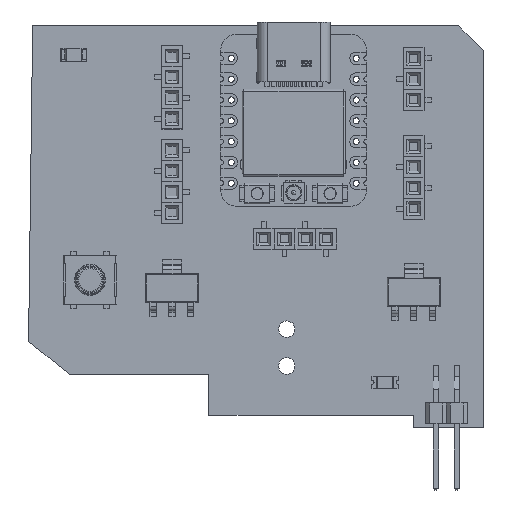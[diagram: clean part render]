
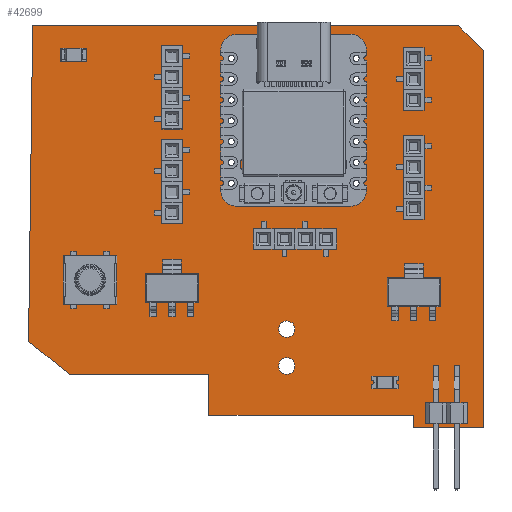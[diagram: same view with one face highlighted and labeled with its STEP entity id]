
A CAD part, top view. The second image highlights one B-rep face of the part: STEP entity #42699.
In plain terms, the highlighted planar face has unit normal (0, 0, 1).
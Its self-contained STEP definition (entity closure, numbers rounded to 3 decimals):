
#42363 = VERTEX_POINT('',#42364);
#42364 = CARTESIAN_POINT('',(242.,-41.5,1.51));
#42370 = EDGE_CURVE('',#42363,#42371,#42373,.T.);
#42371 = VERTEX_POINT('',#42372);
#42372 = CARTESIAN_POINT('',(242.,-87.5,1.51));
#42373 = LINE('',#42374,#42375);
#42374 = CARTESIAN_POINT('',(242.,-41.5,1.51));
#42375 = VECTOR('',#42376,1.);
#42376 = DIRECTION('',(0.,-1.,0.));
#42403 = VERTEX_POINT('',#42404);
#42404 = CARTESIAN_POINT('',(239.,-38.5,1.51));
#42410 = EDGE_CURVE('',#42403,#42363,#42411,.T.);
#42411 = LINE('',#42412,#42413);
#42412 = CARTESIAN_POINT('',(239.,-38.5,1.51));
#42413 = VECTOR('',#42414,1.);
#42414 = DIRECTION('',(0.707,-0.707,0.));
#42432 = EDGE_CURVE('',#42371,#42433,#42435,.T.);
#42433 = VERTEX_POINT('',#42434);
#42434 = CARTESIAN_POINT('',(233.5,-87.5,1.51));
#42435 = LINE('',#42436,#42437);
#42436 = CARTESIAN_POINT('',(242.,-87.5,1.51));
#42437 = VECTOR('',#42438,1.);
#42438 = DIRECTION('',(-1.,0.,0.));
#42699 = ADVANCED_FACE('',(#42700,#42759,#42770,#42781,#42792,#42803,
    #42814,#42825,#42836,#42847,#42858,#42869,#42880,#42891,#42902,
    #42913,#42924),#42935,.T.);
#42700 = FACE_BOUND('',#42701,.T.);
#42701 = EDGE_LOOP('',(#42702,#42703,#42704,#42712,#42720,#42728,#42736,
    #42744,#42752,#42758));
#42702 = ORIENTED_EDGE('',*,*,#42370,.F.);
#42703 = ORIENTED_EDGE('',*,*,#42410,.F.);
#42704 = ORIENTED_EDGE('',*,*,#42705,.F.);
#42705 = EDGE_CURVE('',#42706,#42403,#42708,.T.);
#42706 = VERTEX_POINT('',#42707);
#42707 = CARTESIAN_POINT('',(187.,-38.5,1.51));
#42708 = LINE('',#42709,#42710);
#42709 = CARTESIAN_POINT('',(187.,-38.5,1.51));
#42710 = VECTOR('',#42711,1.);
#42711 = DIRECTION('',(1.,0.,0.));
#42712 = ORIENTED_EDGE('',*,*,#42713,.F.);
#42713 = EDGE_CURVE('',#42714,#42706,#42716,.T.);
#42714 = VERTEX_POINT('',#42715);
#42715 = CARTESIAN_POINT('',(186.5,-77.,1.51));
#42716 = LINE('',#42717,#42718);
#42717 = CARTESIAN_POINT('',(186.5,-77.,1.51));
#42718 = VECTOR('',#42719,1.);
#42719 = DIRECTION('',(0.013,1.,0.));
#42720 = ORIENTED_EDGE('',*,*,#42721,.F.);
#42721 = EDGE_CURVE('',#42722,#42714,#42724,.T.);
#42722 = VERTEX_POINT('',#42723);
#42723 = CARTESIAN_POINT('',(191.5,-81.,1.51));
#42724 = LINE('',#42725,#42726);
#42725 = CARTESIAN_POINT('',(191.5,-81.,1.51));
#42726 = VECTOR('',#42727,1.);
#42727 = DIRECTION('',(-0.781,0.625,0.));
#42728 = ORIENTED_EDGE('',*,*,#42729,.F.);
#42729 = EDGE_CURVE('',#42730,#42722,#42732,.T.);
#42730 = VERTEX_POINT('',#42731);
#42731 = CARTESIAN_POINT('',(208.5,-81.,1.51));
#42732 = LINE('',#42733,#42734);
#42733 = CARTESIAN_POINT('',(208.5,-81.,1.51));
#42734 = VECTOR('',#42735,1.);
#42735 = DIRECTION('',(-1.,0.,0.));
#42736 = ORIENTED_EDGE('',*,*,#42737,.F.);
#42737 = EDGE_CURVE('',#42738,#42730,#42740,.T.);
#42738 = VERTEX_POINT('',#42739);
#42739 = CARTESIAN_POINT('',(208.5,-86.,1.51));
#42740 = LINE('',#42741,#42742);
#42741 = CARTESIAN_POINT('',(208.5,-86.,1.51));
#42742 = VECTOR('',#42743,1.);
#42743 = DIRECTION('',(0.,1.,0.));
#42744 = ORIENTED_EDGE('',*,*,#42745,.F.);
#42745 = EDGE_CURVE('',#42746,#42738,#42748,.T.);
#42746 = VERTEX_POINT('',#42747);
#42747 = CARTESIAN_POINT('',(233.5,-86.,1.51));
#42748 = LINE('',#42749,#42750);
#42749 = CARTESIAN_POINT('',(233.5,-86.,1.51));
#42750 = VECTOR('',#42751,1.);
#42751 = DIRECTION('',(-1.,0.,0.));
#42752 = ORIENTED_EDGE('',*,*,#42753,.F.);
#42753 = EDGE_CURVE('',#42433,#42746,#42754,.T.);
#42754 = LINE('',#42755,#42756);
#42755 = CARTESIAN_POINT('',(233.5,-87.5,1.51));
#42756 = VECTOR('',#42757,1.);
#42757 = DIRECTION('',(0.,1.,0.));
#42758 = ORIENTED_EDGE('',*,*,#42432,.F.);
#42759 = FACE_BOUND('',#42760,.T.);
#42760 = EDGE_LOOP('',(#42761));
#42761 = ORIENTED_EDGE('',*,*,#42762,.T.);
#42762 = EDGE_CURVE('',#42763,#42763,#42765,.T.);
#42763 = VERTEX_POINT('',#42764);
#42764 = CARTESIAN_POINT('',(218.,-81.,1.51));
#42765 = CIRCLE('',#42766,1.);
#42766 = AXIS2_PLACEMENT_3D('',#42767,#42768,#42769);
#42767 = CARTESIAN_POINT('',(218.,-80.,1.51));
#42768 = DIRECTION('',(-0.,0.,-1.));
#42769 = DIRECTION('',(-0.,-1.,0.));
#42770 = FACE_BOUND('',#42771,.T.);
#42771 = EDGE_LOOP('',(#42772));
#42772 = ORIENTED_EDGE('',*,*,#42773,.T.);
#42773 = EDGE_CURVE('',#42774,#42774,#42776,.T.);
#42774 = VERTEX_POINT('',#42775);
#42775 = CARTESIAN_POINT('',(218.,-76.5,1.51));
#42776 = CIRCLE('',#42777,1.);
#42777 = AXIS2_PLACEMENT_3D('',#42778,#42779,#42780);
#42778 = CARTESIAN_POINT('',(218.,-75.5,1.51));
#42779 = DIRECTION('',(-0.,0.,-1.));
#42780 = DIRECTION('',(-0.,-1.,0.));
#42781 = FACE_BOUND('',#42782,.T.);
#42782 = EDGE_LOOP('',(#42783));
#42783 = ORIENTED_EDGE('',*,*,#42784,.T.);
#42784 = EDGE_CURVE('',#42785,#42785,#42787,.T.);
#42785 = VERTEX_POINT('',#42786);
#42786 = CARTESIAN_POINT('',(211.335,-58.185,1.51));
#42787 = CIRCLE('',#42788,0.445);
#42788 = AXIS2_PLACEMENT_3D('',#42789,#42790,#42791);
#42789 = CARTESIAN_POINT('',(211.335,-57.74,1.51));
#42790 = DIRECTION('',(-0.,0.,-1.));
#42791 = DIRECTION('',(-0.,-1.,0.));
#42792 = FACE_BOUND('',#42793,.T.);
#42793 = EDGE_LOOP('',(#42794));
#42794 = ORIENTED_EDGE('',*,*,#42795,.T.);
#42795 = EDGE_CURVE('',#42796,#42796,#42798,.T.);
#42796 = VERTEX_POINT('',#42797);
#42797 = CARTESIAN_POINT('',(211.335,-55.645,1.51));
#42798 = CIRCLE('',#42799,0.445);
#42799 = AXIS2_PLACEMENT_3D('',#42800,#42801,#42802);
#42800 = CARTESIAN_POINT('',(211.335,-55.2,1.51));
#42801 = DIRECTION('',(-0.,0.,-1.));
#42802 = DIRECTION('',(-0.,-1.,0.));
#42803 = FACE_BOUND('',#42804,.T.);
#42804 = EDGE_LOOP('',(#42805));
#42805 = ORIENTED_EDGE('',*,*,#42806,.T.);
#42806 = EDGE_CURVE('',#42807,#42807,#42809,.T.);
#42807 = VERTEX_POINT('',#42808);
#42808 = CARTESIAN_POINT('',(211.335,-53.105,1.51));
#42809 = CIRCLE('',#42810,0.445);
#42810 = AXIS2_PLACEMENT_3D('',#42811,#42812,#42813);
#42811 = CARTESIAN_POINT('',(211.335,-52.66,1.51));
#42812 = DIRECTION('',(-0.,0.,-1.));
#42813 = DIRECTION('',(-0.,-1.,0.));
#42814 = FACE_BOUND('',#42815,.T.);
#42815 = EDGE_LOOP('',(#42816));
#42816 = ORIENTED_EDGE('',*,*,#42817,.T.);
#42817 = EDGE_CURVE('',#42818,#42818,#42820,.T.);
#42818 = VERTEX_POINT('',#42819);
#42819 = CARTESIAN_POINT('',(211.335,-50.565,1.51));
#42820 = CIRCLE('',#42821,0.445);
#42821 = AXIS2_PLACEMENT_3D('',#42822,#42823,#42824);
#42822 = CARTESIAN_POINT('',(211.335,-50.12,1.51));
#42823 = DIRECTION('',(-0.,0.,-1.));
#42824 = DIRECTION('',(-0.,-1.,0.));
#42825 = FACE_BOUND('',#42826,.T.);
#42826 = EDGE_LOOP('',(#42827));
#42827 = ORIENTED_EDGE('',*,*,#42828,.T.);
#42828 = EDGE_CURVE('',#42829,#42829,#42831,.T.);
#42829 = VERTEX_POINT('',#42830);
#42830 = CARTESIAN_POINT('',(211.335,-48.025,1.51));
#42831 = CIRCLE('',#42832,0.445);
#42832 = AXIS2_PLACEMENT_3D('',#42833,#42834,#42835);
#42833 = CARTESIAN_POINT('',(211.335,-47.58,1.51));
#42834 = DIRECTION('',(-0.,0.,-1.));
#42835 = DIRECTION('',(-0.,-1.,0.));
#42836 = FACE_BOUND('',#42837,.T.);
#42837 = EDGE_LOOP('',(#42838));
#42838 = ORIENTED_EDGE('',*,*,#42839,.T.);
#42839 = EDGE_CURVE('',#42840,#42840,#42842,.T.);
#42840 = VERTEX_POINT('',#42841);
#42841 = CARTESIAN_POINT('',(211.335,-45.485,1.51));
#42842 = CIRCLE('',#42843,0.445);
#42843 = AXIS2_PLACEMENT_3D('',#42844,#42845,#42846);
#42844 = CARTESIAN_POINT('',(211.335,-45.04,1.51));
#42845 = DIRECTION('',(-0.,0.,-1.));
#42846 = DIRECTION('',(-0.,-1.,0.));
#42847 = FACE_BOUND('',#42848,.T.);
#42848 = EDGE_LOOP('',(#42849));
#42849 = ORIENTED_EDGE('',*,*,#42850,.T.);
#42850 = EDGE_CURVE('',#42851,#42851,#42853,.T.);
#42851 = VERTEX_POINT('',#42852);
#42852 = CARTESIAN_POINT('',(211.335,-42.945,1.51));
#42853 = CIRCLE('',#42854,0.445);
#42854 = AXIS2_PLACEMENT_3D('',#42855,#42856,#42857);
#42855 = CARTESIAN_POINT('',(211.335,-42.5,1.51));
#42856 = DIRECTION('',(-0.,0.,-1.));
#42857 = DIRECTION('',(-0.,-1.,0.));
#42858 = FACE_BOUND('',#42859,.T.);
#42859 = EDGE_LOOP('',(#42860));
#42860 = ORIENTED_EDGE('',*,*,#42861,.T.);
#42861 = EDGE_CURVE('',#42862,#42862,#42864,.T.);
#42862 = VERTEX_POINT('',#42863);
#42863 = CARTESIAN_POINT('',(226.575,-58.185,1.51));
#42864 = CIRCLE('',#42865,0.445);
#42865 = AXIS2_PLACEMENT_3D('',#42866,#42867,#42868);
#42866 = CARTESIAN_POINT('',(226.575,-57.74,1.51));
#42867 = DIRECTION('',(-0.,0.,-1.));
#42868 = DIRECTION('',(-0.,-1.,0.));
#42869 = FACE_BOUND('',#42870,.T.);
#42870 = EDGE_LOOP('',(#42871));
#42871 = ORIENTED_EDGE('',*,*,#42872,.T.);
#42872 = EDGE_CURVE('',#42873,#42873,#42875,.T.);
#42873 = VERTEX_POINT('',#42874);
#42874 = CARTESIAN_POINT('',(226.575,-55.645,1.51));
#42875 = CIRCLE('',#42876,0.445);
#42876 = AXIS2_PLACEMENT_3D('',#42877,#42878,#42879);
#42877 = CARTESIAN_POINT('',(226.575,-55.2,1.51));
#42878 = DIRECTION('',(-0.,0.,-1.));
#42879 = DIRECTION('',(-0.,-1.,0.));
#42880 = FACE_BOUND('',#42881,.T.);
#42881 = EDGE_LOOP('',(#42882));
#42882 = ORIENTED_EDGE('',*,*,#42883,.T.);
#42883 = EDGE_CURVE('',#42884,#42884,#42886,.T.);
#42884 = VERTEX_POINT('',#42885);
#42885 = CARTESIAN_POINT('',(226.575,-53.105,1.51));
#42886 = CIRCLE('',#42887,0.445);
#42887 = AXIS2_PLACEMENT_3D('',#42888,#42889,#42890);
#42888 = CARTESIAN_POINT('',(226.575,-52.66,1.51));
#42889 = DIRECTION('',(-0.,0.,-1.));
#42890 = DIRECTION('',(-0.,-1.,0.));
#42891 = FACE_BOUND('',#42892,.T.);
#42892 = EDGE_LOOP('',(#42893));
#42893 = ORIENTED_EDGE('',*,*,#42894,.T.);
#42894 = EDGE_CURVE('',#42895,#42895,#42897,.T.);
#42895 = VERTEX_POINT('',#42896);
#42896 = CARTESIAN_POINT('',(226.575,-50.565,1.51));
#42897 = CIRCLE('',#42898,0.445);
#42898 = AXIS2_PLACEMENT_3D('',#42899,#42900,#42901);
#42899 = CARTESIAN_POINT('',(226.575,-50.12,1.51));
#42900 = DIRECTION('',(-0.,0.,-1.));
#42901 = DIRECTION('',(-0.,-1.,0.));
#42902 = FACE_BOUND('',#42903,.T.);
#42903 = EDGE_LOOP('',(#42904));
#42904 = ORIENTED_EDGE('',*,*,#42905,.T.);
#42905 = EDGE_CURVE('',#42906,#42906,#42908,.T.);
#42906 = VERTEX_POINT('',#42907);
#42907 = CARTESIAN_POINT('',(226.575,-48.025,1.51));
#42908 = CIRCLE('',#42909,0.445);
#42909 = AXIS2_PLACEMENT_3D('',#42910,#42911,#42912);
#42910 = CARTESIAN_POINT('',(226.575,-47.58,1.51));
#42911 = DIRECTION('',(-0.,0.,-1.));
#42912 = DIRECTION('',(-0.,-1.,0.));
#42913 = FACE_BOUND('',#42914,.T.);
#42914 = EDGE_LOOP('',(#42915));
#42915 = ORIENTED_EDGE('',*,*,#42916,.T.);
#42916 = EDGE_CURVE('',#42917,#42917,#42919,.T.);
#42917 = VERTEX_POINT('',#42918);
#42918 = CARTESIAN_POINT('',(226.575,-45.485,1.51));
#42919 = CIRCLE('',#42920,0.445);
#42920 = AXIS2_PLACEMENT_3D('',#42921,#42922,#42923);
#42921 = CARTESIAN_POINT('',(226.575,-45.04,1.51));
#42922 = DIRECTION('',(-0.,0.,-1.));
#42923 = DIRECTION('',(-0.,-1.,0.));
#42924 = FACE_BOUND('',#42925,.T.);
#42925 = EDGE_LOOP('',(#42926));
#42926 = ORIENTED_EDGE('',*,*,#42927,.T.);
#42927 = EDGE_CURVE('',#42928,#42928,#42930,.T.);
#42928 = VERTEX_POINT('',#42929);
#42929 = CARTESIAN_POINT('',(226.575,-42.945,1.51));
#42930 = CIRCLE('',#42931,0.445);
#42931 = AXIS2_PLACEMENT_3D('',#42932,#42933,#42934);
#42932 = CARTESIAN_POINT('',(226.575,-42.5,1.51));
#42933 = DIRECTION('',(-0.,0.,-1.));
#42934 = DIRECTION('',(-0.,-1.,0.));
#42935 = PLANE('',#42936);
#42936 = AXIS2_PLACEMENT_3D('',#42937,#42938,#42939);
#42937 = CARTESIAN_POINT('',(0.,0.,1.51));
#42938 = DIRECTION('',(0.,0.,1.));
#42939 = DIRECTION('',(1.,0.,-0.));
